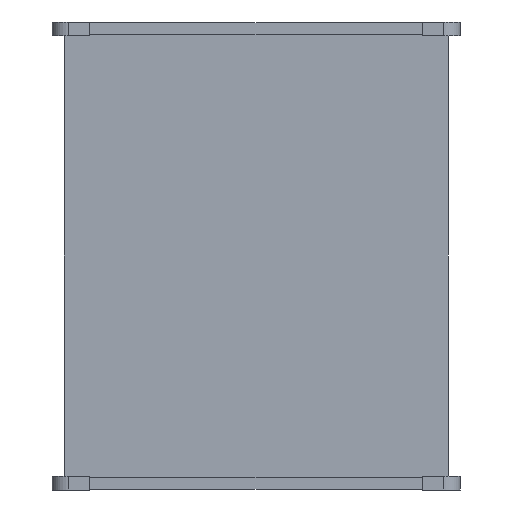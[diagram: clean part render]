
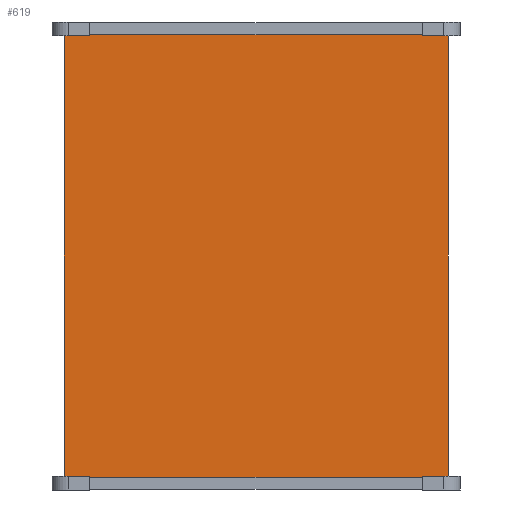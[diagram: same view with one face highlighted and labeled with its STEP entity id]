
A CAD part, front view. The second image highlights one B-rep face of the part: STEP entity #619.
In plain terms, the highlighted planar face has unit normal (0, -1, 0).
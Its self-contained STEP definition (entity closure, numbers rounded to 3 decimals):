
#619=ADVANCED_FACE('',(#1326),#1327,.F.);
#1326=FACE_OUTER_BOUND('',#2127,.T.);
#1327=PLANE('',#2128);
#2127=EDGE_LOOP('',(#4072,#4073,#4074,#4075,#4076,#4077,#4078,#4079,#4080,#4081,#4082,#4083));
#2128=AXIS2_PLACEMENT_3D('',#4084,#4085,#4086);
#4072=ORIENTED_EDGE('',*,*,#5656,.T.);
#4073=ORIENTED_EDGE('',*,*,#5629,.T.);
#4074=ORIENTED_EDGE('',*,*,#5683,.T.);
#4075=ORIENTED_EDGE('',*,*,#5684,.T.);
#4076=ORIENTED_EDGE('',*,*,#5685,.T.);
#4077=ORIENTED_EDGE('',*,*,#5686,.T.);
#4078=ORIENTED_EDGE('',*,*,#5687,.T.);
#4079=ORIENTED_EDGE('',*,*,#5688,.T.);
#4080=ORIENTED_EDGE('',*,*,#5689,.F.);
#4081=ORIENTED_EDGE('',*,*,#5690,.T.);
#4082=ORIENTED_EDGE('',*,*,#5691,.T.);
#4083=ORIENTED_EDGE('',*,*,#5680,.T.);
#4084=CARTESIAN_POINT('',(0.,-102.96,-252.5));
#4085=DIRECTION('',(0.,1.0,0.0));
#4086=DIRECTION('',(0.,0.,1.0));
#5629=EDGE_CURVE('',#7023,#7024,#7025,.T.);
#5656=EDGE_CURVE('',#7063,#7023,#7064,.T.);
#5680=EDGE_CURVE('',#7099,#7063,#7100,.T.);
#5683=EDGE_CURVE('',#7024,#7103,#7104,.T.);
#5684=EDGE_CURVE('',#7103,#7105,#7106,.T.);
#5685=EDGE_CURVE('',#7105,#7107,#7108,.T.);
#5686=EDGE_CURVE('',#7107,#7109,#7110,.T.);
#5687=EDGE_CURVE('',#7109,#7111,#7112,.T.);
#5688=EDGE_CURVE('',#7111,#7113,#7114,.T.);
#5689=EDGE_CURVE('',#7115,#7113,#7116,.T.);
#5690=EDGE_CURVE('',#7115,#7117,#7118,.T.);
#5691=EDGE_CURVE('',#7117,#7099,#7119,.T.);
#7023=VERTEX_POINT('',#8949);
#7024=VERTEX_POINT('',#8950);
#7025=LINE('',#8951,#8952);
#7063=VERTEX_POINT('',#9004);
#7064=LINE('',#9005,#9006);
#7099=VERTEX_POINT('',#9058);
#7100=LINE('',#9059,#9060);
#7103=VERTEX_POINT('',#9064);
#7104=LINE('',#9065,#9066);
#7105=VERTEX_POINT('',#9067);
#7106=LINE('',#9068,#9069);
#7107=VERTEX_POINT('',#9070);
#7108=LINE('',#9071,#9072);
#7109=VERTEX_POINT('',#9073);
#7110=LINE('',#9074,#9075);
#7111=VERTEX_POINT('',#9076);
#7112=LINE('',#9077,#9078);
#7113=VERTEX_POINT('',#9079);
#7114=LINE('',#9080,#9081);
#7115=VERTEX_POINT('',#9082);
#7116=LINE('',#9083,#9084);
#7117=VERTEX_POINT('',#9085);
#7118=LINE('',#9086,#9087);
#7119=LINE('',#9088,#9089);
#8949=CARTESIAN_POINT('',(180.0,-102.96,-491.375));
#8950=CARTESIAN_POINT('',(208.0,-102.96,-491.375));
#8951=CARTESIAN_POINT('',(100.25,-102.96,-491.375));
#8952=VECTOR('',#10681,1.0);
#9004=CARTESIAN_POINT('',(180.0,-102.96,-492.375));
#9005=CARTESIAN_POINT('',(180.0,-102.96,-375.594));
#9006=VECTOR('',#10714,1.0);
#9058=CARTESIAN_POINT('',(-180.0,-102.96,-492.375));
#9059=CARTESIAN_POINT('',(0.,-102.96,-492.375));
#9060=VECTOR('',#10732,1.0);
#9064=CARTESIAN_POINT('',(208.0,-102.96,-13.625));
#9065=CARTESIAN_POINT('',(208.0,-102.96,-252.5));
#9066=VECTOR('',#10734,1.0);
#9067=CARTESIAN_POINT('',(180.0,-102.96,-13.625));
#9068=CARTESIAN_POINT('',(100.25,-102.96,-13.625));
#9069=VECTOR('',#10735,1.0);
#9070=CARTESIAN_POINT('',(180.0,-102.96,-12.625));
#9071=CARTESIAN_POINT('',(180.0,-102.96,-129.406));
#9072=VECTOR('',#10736,1.0);
#9073=CARTESIAN_POINT('',(-180.0,-102.96,-12.625));
#9074=CARTESIAN_POINT('',(0.,-102.96,-12.625));
#9075=VECTOR('',#10737,1.0);
#9076=CARTESIAN_POINT('',(-180.0,-102.96,-13.625));
#9077=CARTESIAN_POINT('',(-180.0,-102.96,-129.406));
#9078=VECTOR('',#10738,1.0);
#9079=CARTESIAN_POINT('',(-208.0,-102.96,-13.625));
#9080=CARTESIAN_POINT('',(-100.25,-102.96,-13.625));
#9081=VECTOR('',#10739,1.0);
#9082=CARTESIAN_POINT('',(-208.0,-102.96,-491.375));
#9083=CARTESIAN_POINT('',(-208.0,-102.96,-252.5));
#9084=VECTOR('',#10740,1.0);
#9085=CARTESIAN_POINT('',(-180.0,-102.96,-491.375));
#9086=CARTESIAN_POINT('',(-100.25,-102.96,-491.375));
#9087=VECTOR('',#10741,1.0);
#9088=CARTESIAN_POINT('',(-180.0,-102.96,-375.594));
#9089=VECTOR('',#10742,1.0);
#10681=DIRECTION('',(1.0,0.,0.0));
#10714=DIRECTION('',(0.0,0.0,1.0));
#10732=DIRECTION('',(1.0,0.,0.));
#10734=DIRECTION('',(0.,0.,1.0));
#10735=DIRECTION('',(-1.0,0.,0.0));
#10736=DIRECTION('',(0.0,0.0,1.0));
#10737=DIRECTION('',(-1.0,0.,0.));
#10738=DIRECTION('',(0.,0.,-1.0));
#10739=DIRECTION('',(-1.0,0.,0.));
#10740=DIRECTION('',(0.,0.,1.0));
#10741=DIRECTION('',(1.0,0.,0.));
#10742=DIRECTION('',(0.,0.,-1.0));
